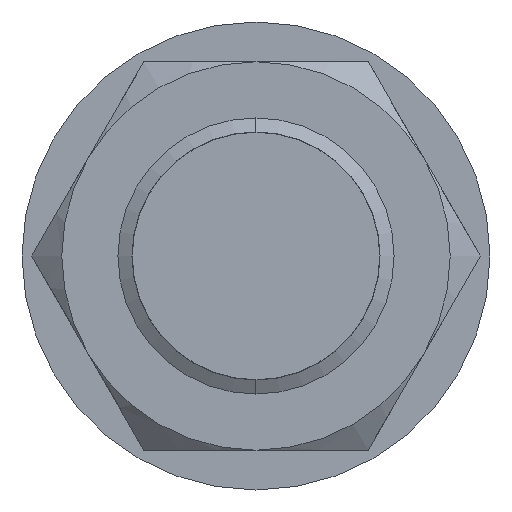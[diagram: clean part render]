
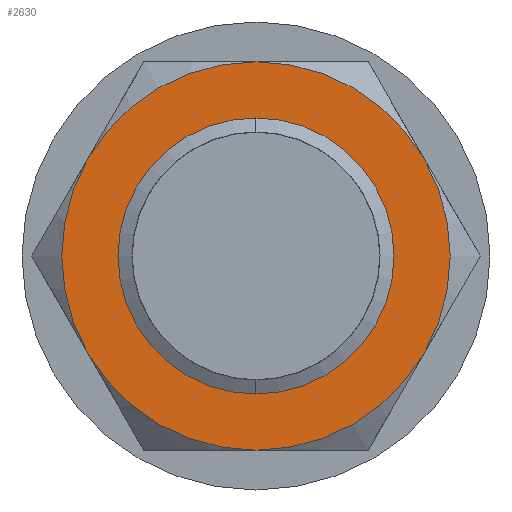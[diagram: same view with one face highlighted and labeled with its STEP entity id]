
A CAD part, left-side view. The second image highlights one B-rep face of the part: STEP entity #2630.
In plain terms, the highlighted planar face has unit normal (-1, 0, 0).
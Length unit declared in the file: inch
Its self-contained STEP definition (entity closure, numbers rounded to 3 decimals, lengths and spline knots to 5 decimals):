
#283 = ORIENTED_EDGE ( 'NONE', *, *, #11206, .F. ) ;
#356 = CARTESIAN_POINT ( 'NONE',  ( 4.70339, 4., -0.332 ) ) ;
#659 = CIRCLE ( 'NONE', #667, 0.332 ) ;
#667 = AXIS2_PLACEMENT_3D ( 'NONE', #668, #669, #670 ) ;
#668 = CARTESIAN_POINT ( 'NONE',  ( 4.70339, 4., 0. ) ) ;
#669 = DIRECTION ( 'NONE',  ( 1., 0., 0. ) ) ;
#670 = DIRECTION ( 'NONE',  ( 0., 0., -1. ) ) ;
#833 = EDGE_CURVE ( 'NONE', #5722, #15094, #13739, .T. ) ;
#882 = EDGE_LOOP ( 'NONE', ( #283, #16182, #15589, #15002, #8527, #7952 ) ) ;
#1167 = ORIENTED_EDGE ( 'NONE', *, *, #12464, .F. ) ;
#1208 = VERTEX_POINT ( 'NONE', #14041 ) ;
#1761 = ORIENTED_EDGE ( 'NONE', *, *, #14326, .F. ) ;
#2083 = CIRCLE ( 'NONE', #2084, 0.332 ) ;
#2084 = AXIS2_PLACEMENT_3D ( 'NONE', #2085, #2086, #2087 ) ;
#2085 = CARTESIAN_POINT ( 'NONE',  ( 4.70339, 4., 0. ) ) ;
#2086 = DIRECTION ( 'NONE',  ( 1., 0., 0. ) ) ;
#2087 = DIRECTION ( 'NONE',  ( 0., 0., -1. ) ) ;
#2349 = EDGE_LOOP ( 'NONE', ( #1761, #1167 ) ) ;
#2630 = ADVANCED_FACE ( 'NONE', ( #14816, #14817 ), #14818, .F. ) ;
#3008 = CARTESIAN_POINT ( 'NONE',  ( 4.70339, 3.71248, -0.166 ) ) ;
#3425 = CIRCLE ( 'NONE', #3426, 0.332 ) ;
#3426 = AXIS2_PLACEMENT_3D ( 'NONE', #3427, #3428, #3429 ) ;
#3427 = CARTESIAN_POINT ( 'NONE',  ( 4.70339, 4., 0. ) ) ;
#3428 = DIRECTION ( 'NONE',  ( 1., 0., 0. ) ) ;
#3429 = DIRECTION ( 'NONE',  ( 0., 0., -1. ) ) ;
#5075 = CIRCLE ( 'NONE', #5076, 0.332 ) ;
#5076 = AXIS2_PLACEMENT_3D ( 'NONE', #5077, #5082, #5083 ) ;
#5077 = CARTESIAN_POINT ( 'NONE',  ( 4.70339, 4., 0. ) ) ;
#5082 = DIRECTION ( 'NONE',  ( 1., 0., 0. ) ) ;
#5083 = DIRECTION ( 'NONE',  ( 0., 0., -1. ) ) ;
#5094 = CARTESIAN_POINT ( 'NONE',  ( 4.70339, 4.28752, 0.166 ) ) ;
#5722 = VERTEX_POINT ( 'NONE', #356 ) ;
#5971 = CIRCLE ( 'NONE', #5978, 0.231 ) ;
#5978 = AXIS2_PLACEMENT_3D ( 'NONE', #5979, #5980, #5981 ) ;
#5979 = CARTESIAN_POINT ( 'NONE',  ( 4.70339, 4., 0. ) ) ;
#5980 = DIRECTION ( 'NONE',  ( -1., 0., 0. ) ) ;
#5981 = DIRECTION ( 'NONE',  ( 0., 0., -1. ) ) ;
#6416 = EDGE_CURVE ( 'NONE', #12164, #13140, #659, .T. ) ;
#7511 = CARTESIAN_POINT ( 'NONE',  ( 4.70339, 4., 0.332 ) ) ;
#7952 = ORIENTED_EDGE ( 'NONE', *, *, #13857, .F. ) ;
#8157 = CARTESIAN_POINT ( 'NONE',  ( 4.70339, 4., 0.231 ) ) ;
#8158 = CIRCLE ( 'NONE', #8159, 0.332 ) ;
#8159 = AXIS2_PLACEMENT_3D ( 'NONE', #8160, #8161, #8162 ) ;
#8160 = CARTESIAN_POINT ( 'NONE',  ( 4.70339, 4., 0. ) ) ;
#8161 = DIRECTION ( 'NONE',  ( 1., 0., 0. ) ) ;
#8162 = DIRECTION ( 'NONE',  ( 0., 0., -1. ) ) ;
#8309 = CARTESIAN_POINT ( 'NONE',  ( 4.70339, 4., -0.231 ) ) ;
#8421 = CIRCLE ( 'NONE', #8422, 0.231 ) ;
#8422 = AXIS2_PLACEMENT_3D ( 'NONE', #8423, #8424, #8425 ) ;
#8423 = CARTESIAN_POINT ( 'NONE',  ( 4.70339, 4., 0. ) ) ;
#8424 = DIRECTION ( 'NONE',  ( -1., 0., 0. ) ) ;
#8425 = DIRECTION ( 'NONE',  ( 0., 0., -1. ) ) ;
#8527 = ORIENTED_EDGE ( 'NONE', *, *, #833, .F. ) ;
#8714 = EDGE_CURVE ( 'NONE', #15094, #12164, #2083, .T. ) ;
#8812 = CARTESIAN_POINT ( 'NONE',  ( 4.70339, 4.28752, -0.166 ) ) ;
#10361 = VERTEX_POINT ( 'NONE', #3008 ) ;
#11206 = EDGE_CURVE ( 'NONE', #1208, #10361, #3425, .T. ) ;
#12157 = EDGE_CURVE ( 'NONE', #13140, #1208, #5075, .T. ) ;
#12164 = VERTEX_POINT ( 'NONE', #5094 ) ;
#12464 = EDGE_CURVE ( 'NONE', #13856, #14114, #5971, .T. ) ;
#13140 = VERTEX_POINT ( 'NONE', #7511 ) ;
#13739 = CIRCLE ( 'NONE', #13740, 0.332 ) ;
#13740 = AXIS2_PLACEMENT_3D ( 'NONE', #13741, #13742, #13743 ) ;
#13741 = CARTESIAN_POINT ( 'NONE',  ( 4.70339, 4., 0. ) ) ;
#13742 = DIRECTION ( 'NONE',  ( 1., 0., 0. ) ) ;
#13743 = DIRECTION ( 'NONE',  ( 0., 0., -1. ) ) ;
#13856 = VERTEX_POINT ( 'NONE', #8157 ) ;
#13857 = EDGE_CURVE ( 'NONE', #10361, #5722, #8158, .T. ) ;
#14041 = CARTESIAN_POINT ( 'NONE',  ( 4.70339, 3.71248, 0.166 ) ) ;
#14114 = VERTEX_POINT ( 'NONE', #8309 ) ;
#14326 = EDGE_CURVE ( 'NONE', #14114, #13856, #8421, .T. ) ;
#14816 = FACE_BOUND ( 'NONE', #2349, .T. ) ;
#14817 = FACE_OUTER_BOUND ( 'NONE', #882, .T. ) ;
#14818 = PLANE ( 'NONE',  #14819 ) ;
#14819 = AXIS2_PLACEMENT_3D ( 'NONE', #14820, #14821, #14822 ) ;
#14820 = CARTESIAN_POINT ( 'NONE',  ( 4.70339, 4., 0. ) ) ;
#14821 = DIRECTION ( 'NONE',  ( 1., 0., 0. ) ) ;
#14822 = DIRECTION ( 'NONE',  ( 0., 0., -1. ) ) ;
#15002 = ORIENTED_EDGE ( 'NONE', *, *, #8714, .F. ) ;
#15094 = VERTEX_POINT ( 'NONE', #8812 ) ;
#15589 = ORIENTED_EDGE ( 'NONE', *, *, #6416, .F. ) ;
#16182 = ORIENTED_EDGE ( 'NONE', *, *, #12157, .F. ) ;
